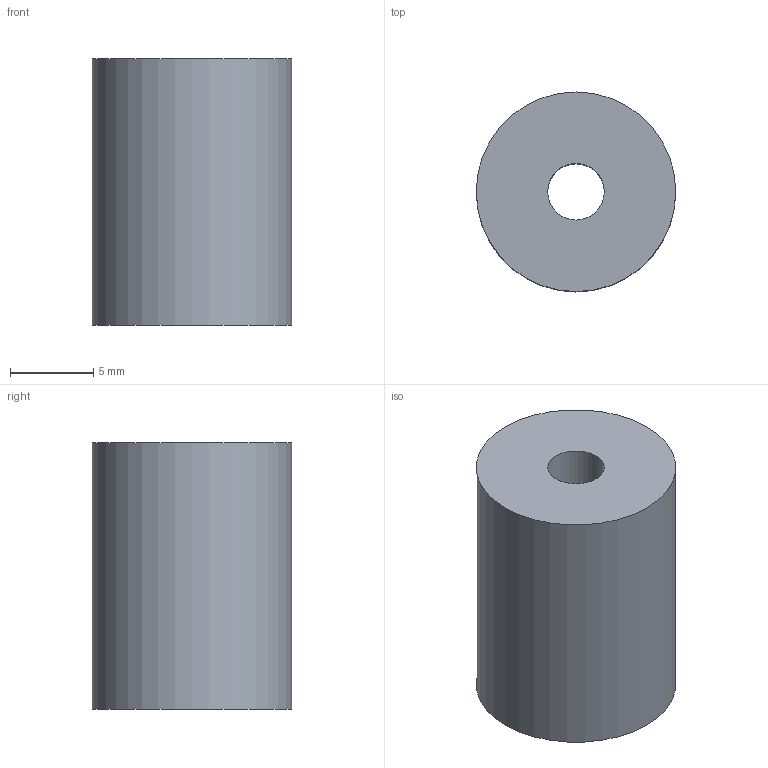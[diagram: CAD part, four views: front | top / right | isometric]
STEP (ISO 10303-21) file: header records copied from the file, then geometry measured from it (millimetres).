
FILE_DESCRIPTION(('Open CASCADE Model'),'2;1');
FILE_NAME('Open CASCADE Shape Model','2026-10-21T12:05:00',('Author'),( 'Open CASCADE'),'Open CASCADE STEP processor 7.9','Open CASCADE 7.9' ,'Unknown');
FILE_SCHEMA(('AUTOMOTIVE_DESIGN { 1 0 10303 214 1 1 1 1 }'));
Length unit declared in the file: millimetre
Products named in the file (1): Open CASCADE STEP translator 7.9 3
Bounding box: 12 x 12 x 16 mm (x, y, z)
Volume: 1664.3 mm3; surface area: 982.1 mm2
Topology: 1 solids, 1 shells, 4 faces, 6 edges, 4 vertices
Faces by surface type: cylinder 2, plane 2
Full cylindrical faces by diameter (mm): 3.4 x1, 12 x1
Entity records: 192 total; most frequent: CARTESIAN_POINT 39, DIRECTION 30, ORIENTED_EDGE 12, PCURVE 12, DEFINITIONAL_REPRESENTATION 12, LINE 10, VECTOR 10, AXIS2_PLACEMENT_3D 9
